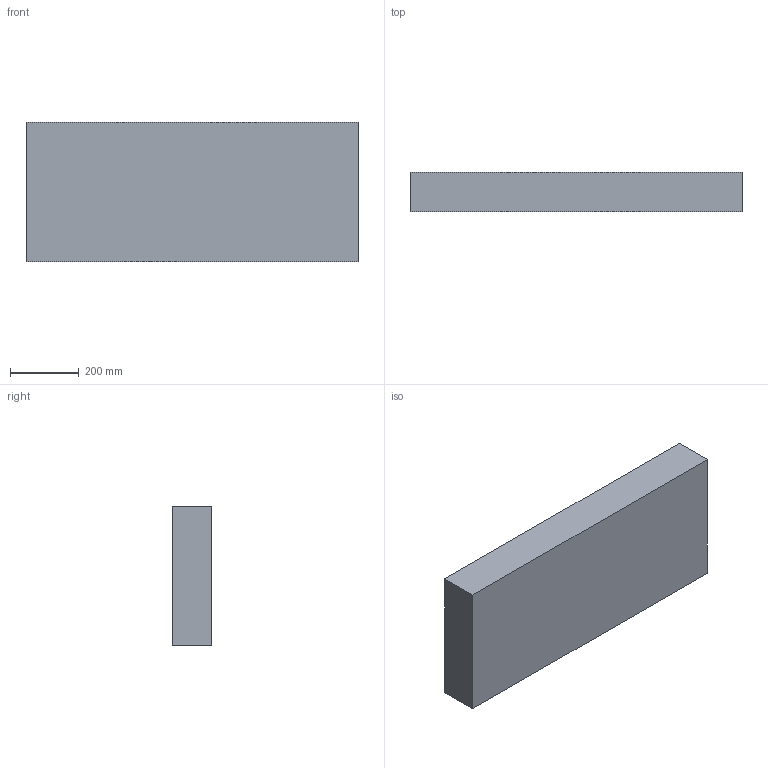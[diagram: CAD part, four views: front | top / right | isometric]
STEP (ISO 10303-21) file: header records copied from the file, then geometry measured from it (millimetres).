
FILE_DESCRIPTION (( 'STEP AP214' ), '1' );
FILE_NAME ('1700E - 932 BOTTOM PID 6-12-2025.STEP', '2025-06-13T06:29:05', ( '' ), ( '' ), 'SwSTEP 2.0', 'SolidWorks 2021', '' );
FILE_SCHEMA (( 'AUTOMOTIVE_DESIGN' ));
Length unit declared in the file: inch
Products named in the file (1): 1700E - 932 BOTTOM PID 6-12-2025
Bounding box: 963.44 x 115.32 x 403.86 mm (x, y, z)
Volume: 16367999.1 mm3; surface area: 1297457.7 mm2
Topology: 1 solids, 1 shells, 68 faces, 176 edges, 108 vertices
Faces by surface type: plane 24, bspline 24, cylinder 20
Entity records: 2764 total; most frequent: CARTESIAN_POINT 1325, ORIENTED_EDGE 344, DIRECTION 210, EDGE_CURVE 172, VERTEX_POINT 108, VECTOR 96, LINE 96, EDGE_LOOP 70
